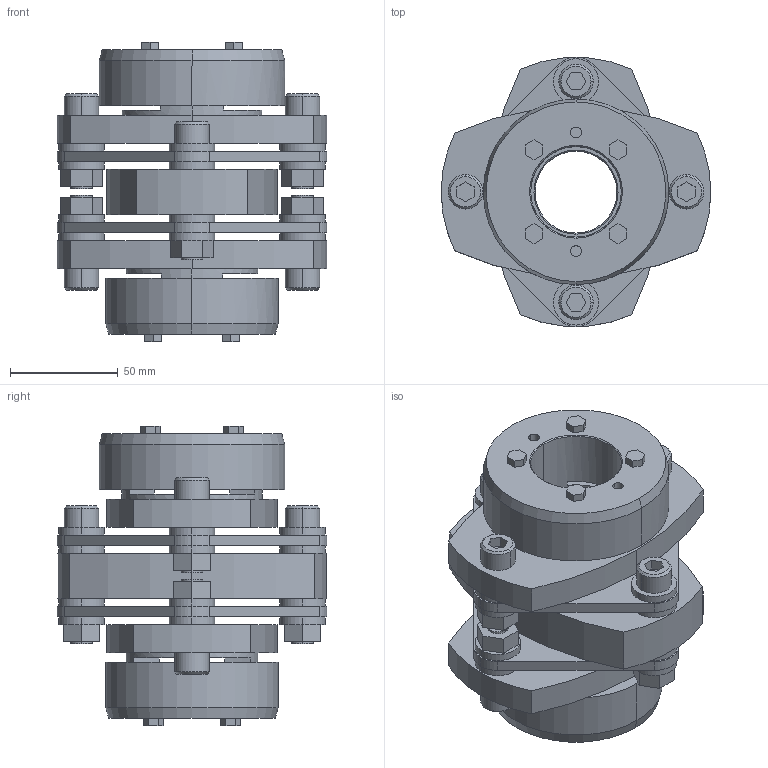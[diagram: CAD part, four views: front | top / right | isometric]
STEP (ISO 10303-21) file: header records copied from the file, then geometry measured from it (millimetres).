
FILE_DESCRIPTION((''),'2;1');
FILE_NAME('LCD-125T7-38×42.stp','2011-09-07T10:21:41',(''),(''),'AutoCAD STEP 2000i','AutoCAD 2000i',', , ');
FILE_SCHEMA(('CONFIG_CONTROL_DESIGN'));
Length unit declared in the file: millimetre
Products named in the file (9): LCD-125T7-38×40; 忣兜1; LC125T7-T040; LC125T7-T038-1; LC125T7-T038; LC125T7-T035; LC125T7-T032-1; LC125T7-T032; LCD125-ITA
Assembly tree (8 placements, depth 2):
  LCD-125T7-38×40
    忣兜1
    LC125T7-T040
    LC125T7-T038-1
    LC125T7-T038
    LC125T7-T035
    LC125T7-T032-1
    LC125T7-T032
    LCD125-ITA
Bounding box: 125 x 124.91 x 139 mm (x, y, z)
Volume: 657711.7 mm3; surface area: 138480.5 mm2
Topology: 1 solids, 1 shells, 334 faces, 818 edges, 538 vertices
Faces by surface type: plane 190, cylinder 120, cone 24
Entity records: 10127 total; most frequent: DIRECTION 1786, CARTESIAN_POINT 1699, ORIENTED_EDGE 1636, EDGE_CURVE 818, AXIS2_PLACEMENT_3D 625, VERTEX_POINT 538, VECTOR 536, LINE 536
